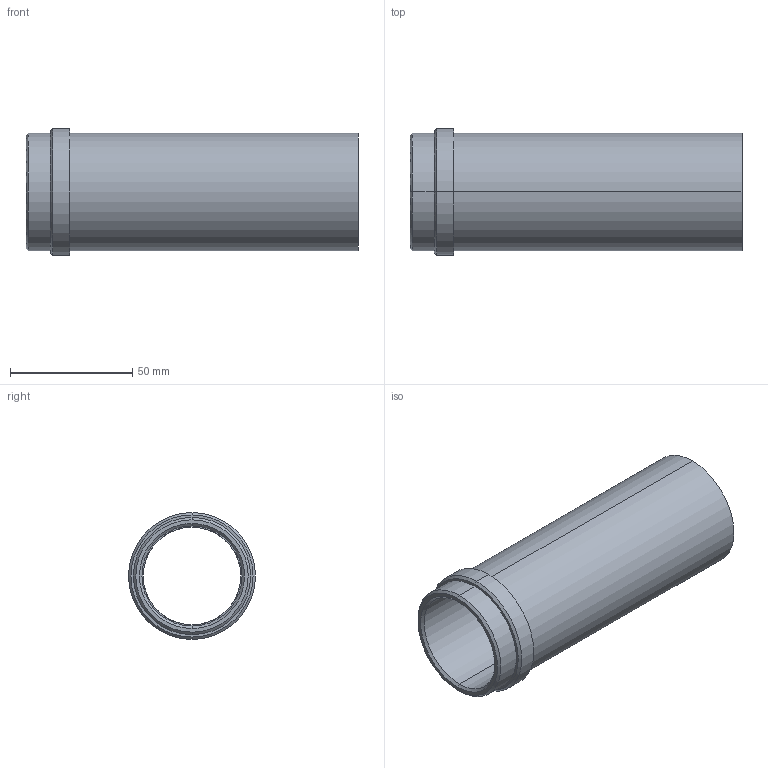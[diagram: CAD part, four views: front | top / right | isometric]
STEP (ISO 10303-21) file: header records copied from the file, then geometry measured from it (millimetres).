
FILE_DESCRIPTION(('CATIA V5 STEP Exchange'),'2;1');
FILE_NAME('C:\Users\Utente\Desktop\IO LAVORO\3D X SITO CF\X SITO\PLASTICA\358\358-40x136.stp','2021-04-09T14:56:39+00:00',('none'),('none'),'CATIA Version 5 Release 20 GA (IN-10)','CATIA V5 STEP AP203','none');
FILE_SCHEMA(('CONFIG_CONTROL_DESIGN'));
Length unit declared in the file: millimetre
Products named in the file (1): 358-40X136
Bounding box: 136 x 52 x 52 mm (x, y, z)
Volume: 73817.1 mm3; surface area: 39242.3 mm2
Topology: 1 solids, 1 shells, 23 faces, 74 edges, 56 vertices
Faces by surface type: cylinder 10, cone 6, plane 5, torus 2
Entity records: 1066 total; most frequent: CARTESIAN_POINT 378, ORIENTED_EDGE 148, DIRECTION 104, EDGE_CURVE 74, AXIS2_PLACEMENT_3D 66, VERTEX_POINT 56, CIRCLE 42, EDGE_LOOP 28
